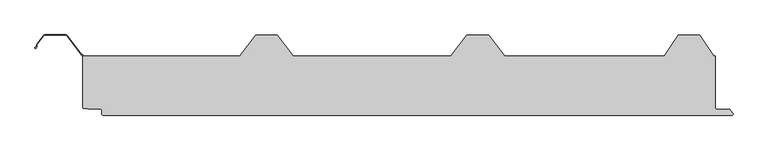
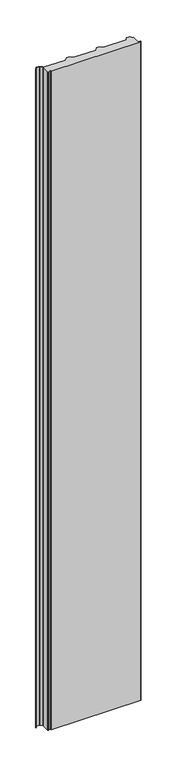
"""IFC4 building model written with IfcOpenShell, lengths in millimetres: plate geometry, Europanels_PolDeck TD T_Vt : PolDeck TD T 100/135."""

from ifc_helpers import new_model, si_unit, point, frame, frame_2d, origin, origin_with_axes, place, context, project, spatial, polyline, circle_curve, trimmed, segment, composite_curve, outline, extrude, source, transform, mapped, element, save
from ifc_brep_helpers import plane_surface, cylinder_surface, revolved_surface, advanced_brep


def plate_f1b753af(model_context):
    return source(origin(), model_context, "Body", "SolidModel", [
        advanced_brep(
        [(-451.8371719, -50.0, 8180.0), (604.7628281, -50.0, 8180.0), (606.2516728, -46.9196011, 8180.0), (600.7656048, -39.9999883, 8180.0), (578.1627902, -40.0, 8180.0), (576.6627894, -38.5, 8180.0), (576.6627847, 50.0, 8180.0), (574.2316867, 50.0, 8180.0), (550.6325074, 84.7, 8180.0), (514.338799, 84.7, 8180.0), (490.7979812, 50.0, 8180.0), (222.5813316, 50.0, 8180.0), (195.6147806, 85.0, 8180.0), (159.3852194, 85.0, 8180.0), (132.4186684, 50.0, 8180.0), (-132.4186684, 50.0, 8180.0), (-159.3852194, 85.0, 8180.0), (-195.6147806, 85.0, 8180.0), (-222.5813316, 50.0, 8180.0), (-486.3371146, 50.0, 8180.0), (-486.3371755, -36.2927937, 8180.0), (-484.1472604, -38.7737392, 8180.0), (-478.3371959, -39.5000014, 8180.0), (-456.0371722, -39.5, 8180.0), (-454.3371721, -41.2, 8180.0), (-454.3371719, -47.5, 8180.0), (-451.8371719, -50.0, 0.0), (-454.3371719, -47.5, 0.0), (-454.3371719, -41.2, 0.0), (-456.0371722, -39.5, 0.0), (-478.3371959, -39.5000014, 0.0), (-484.1472604, -38.7737392, 0.0), (-486.3371755, -36.2927937, 0.0), (-486.3371146, 50.0, 0.0), (-222.5813316, 50.0, 0.0), (-195.6147806, 85.0, 0.0), (-159.3852194, 85.0, 0.0), (-132.4186684, 50.0, 0.0), (132.4186684, 50.0, 0.0), (159.3852194, 85.0, 0.0), (195.6147806, 85.0, 0.0), (222.5813316, 50.0, 0.0), (490.7979812, 50.0, 0.0), (514.338799, 84.7, 0.0), (550.6325074, 84.7, 0.0), (574.2316867, 50.0, 0.0), (576.6627847, 50.0, 0.0), (576.6627847, -38.5, 0.0), (578.1627902, -40.0, 0.0), (600.7656048, -39.9999883, 0.0), (606.2516728, -46.9196011, 0.0), (604.7628281, -50.0, 0.0)],
        [
            (0, 1),
            (1, 2, circle_curve(frame((604.7628281, -48.1, 8180.0), z_axis=(0.0, 0.0, 1.0), x_axis=(1.0, 0.0, 0.0)), 1.9)),
            (2, 3),
            (3, 4),
            (4, 5, circle_curve(frame((578.1627894, -38.5, 8180.0), z_axis=(0.0, 0.0, -1.0), x_axis=(1.0, 0.0, 0.0)), 1.5)),
            (5, 6),
            (6, 7),
            (7, 8),
            (8, 9),
            (9, 10),
            (10, 11),
            (11, 12),
            (12, 13),
            (13, 14),
            (14, 15),
            (15, 16),
            (16, 17),
            (17, 18),
            (18, 19),
            (19, 20),
            (20, 21, circle_curve(frame((-483.7947516, -36.2555968, 8180.0), z_axis=(0.0, 0.0, 1.0), x_axis=(1.0, 0.0, 0.0)), 2.5426961)),
            (21, 22),
            (22, 23),
            (23, 24, circle_curve(frame((-456.0371721, -41.2, 8180.0), z_axis=(0.0, 0.0, -1.0), x_axis=(1.0, 0.0, 0.0)), 1.7)),
            (24, 25),
            (25, 0, circle_curve(frame((-451.8371719, -47.5, 8180.0), z_axis=(0.0, 0.0, 1.0), x_axis=(1.0, 0.0, 0.0)), 2.5)),
            (26, 27, circle_curve(frame((-451.8371719, -47.5, 0.0), z_axis=(0.0, 0.0, -1.0), x_axis=(1.0, 0.0, 0.0)), 2.5)),
            (27, 28),
            (28, 29, circle_curve(frame((-456.0371721, -41.2, 0.0), z_axis=(0.0, 0.0, 1.0), x_axis=(1.0, 0.0, 0.0)), 1.7)),
            (29, 30),
            (30, 31),
            (31, 32, circle_curve(frame((-483.7947516, -36.2555968, 0.0), z_axis=(0.0, 0.0, -1.0), x_axis=(1.0, 0.0, 0.0)), 2.5426961)),
            (32, 33),
            (33, 34),
            (34, 35),
            (35, 36),
            (36, 37),
            (37, 38),
            (38, 39),
            (39, 40),
            (40, 41),
            (41, 42),
            (42, 43),
            (43, 44),
            (44, 45),
            (45, 46),
            (46, 47),
            (47, 48, circle_curve(frame((578.1627894, -38.5, 0.0), z_axis=(0.0, 0.0, 1.0), x_axis=(1.0, 0.0, 0.0)), 1.5)),
            (48, 49),
            (49, 50),
            (50, 51, circle_curve(frame((604.7628281, -48.1, 0.0), z_axis=(0.0, 0.0, -1.0), x_axis=(1.0, 0.0, 0.0)), 1.9)),
            (51, 26),
            (0, 26),
            (51, 1),
            (12, 40),
            (39, 13),
            (16, 36),
            (35, 17),
            (50, 2),
            (49, 3),
            (48, 4),
            (47, 5),
            (46, 6),
            (32, 20),
            (19, 33),
            (31, 21),
            (30, 22),
            (29, 23),
            (28, 24),
            (27, 25),
            (18, 34),
            (15, 37),
            (14, 38),
            (11, 41),
            (10, 42),
            (9, 43),
            (8, 44),
            (7, 45),
        ],
        [
            plane_surface(frame((604.7628281, -50.0, 8180.0), z_axis=(0.0, 0.0, 1.0), x_axis=(1.0, 0.0, 0.0))),
            plane_surface(frame((604.7628281, -50.0, 0.0), z_axis=(0.0, 0.0, -1.0), x_axis=(-1.0, 0.0, 0.0))),
            plane_surface(frame((-451.8371719, -50.0, 8180.0), z_axis=(0.0, -1.0, 0.0), x_axis=(0.0, 0.0, -1.0))),
            plane_surface(frame((576.6627847, 85.0, 8180.0), z_axis=(0.0, 1.0, 0.0), x_axis=(0.0, 0.0, -1.0))),
            cylinder_surface(frame((604.7628281, -48.1, 0.0), z_axis=(0.0, 0.0, 1.0), x_axis=(1.0, 0.0, 0.0)), 1.9),
            plane_surface(frame((606.2516728, -46.9196011, 8180.0), z_axis=(0.7836024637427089, 0.6212625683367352, 0.0), x_axis=(0.0, 0.0, -1.0))),
            plane_surface(frame((600.7656048, -39.9999883, 8180.0), z_axis=(-5.177725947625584e-07, 0.999999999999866, 0.0), x_axis=(0.0, 0.0, -1.0))),
            revolved_surface(polyline([(579.6627894, -38.5, 0.0), (579.6627894, -38.5, 8180.0)]), (578.1627894, -38.5, 0.0), (0.0, 0.0, -1.0)),
            plane_surface(frame((576.6627847, -38.5, 8180.0), z_axis=(1.0, 0.0, 0.0), x_axis=(0.0, 0.0, -1.0))),
            plane_surface(frame((-486.3370898, 85.0, 8180.0), z_axis=(-0.9999999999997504, 7.066005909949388e-07, 0.0), x_axis=(0.0, 0.0, -1.0))),
            cylinder_surface(frame((-483.7947516, -36.2555968, 0.0), z_axis=(0.0, 0.0, 1.0), x_axis=(1.0, 0.0, 0.0)), 2.5426961),
            plane_surface(frame((-484.1472604, -38.7737392, 8180.0), z_axis=(-0.12403543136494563, -0.9922777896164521, 0.0), x_axis=(0.0, 0.0, -1.0))),
            plane_surface(frame((-478.3371959, -39.5000014, 8180.0), z_axis=(6.152407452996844e-08, -0.9999999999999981, 0.0), x_axis=(0.0, 0.0, -1.0))),
            revolved_surface(polyline([(-454.33717210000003, -41.2, 0.0), (-454.33717210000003, -41.2, 8180.0)]), (-456.0371721, -41.2, 0.0), (0.0, 0.0, -1.0)),
            plane_surface(frame((-454.3371719, -41.2, 8180.0), z_axis=(-1.0, 0.0, 0.0), x_axis=(0.0, 0.0, -1.0))),
            cylinder_surface(frame((-451.8371719, -47.5, 0.0), z_axis=(0.0, 0.0, 1.0), x_axis=(1.0, 0.0, 0.0)), 2.5),
            plane_surface(frame((-486.7507581, 50.0, 8180.0), z_axis=(0.0, 1.0, 0.0), x_axis=(0.0, 0.0, -1.0))),
            plane_surface(frame((-222.5813316, 50.0, 8180.0), z_axis=(-0.7921482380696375, 0.6103287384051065, 0.0), x_axis=(0.0, 0.0, -1.0))),
            plane_surface(frame((-159.3852194, 85.0, 8180.0), z_axis=(0.7921482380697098, 0.6103287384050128, 0.0), x_axis=(0.0, 0.0, -1.0))),
            plane_surface(frame((-132.4186684, 50.0, 8180.0), z_axis=(0.0, 1.0, 0.0), x_axis=(0.0, 0.0, -1.0))),
            plane_surface(frame((132.4186684, 50.0, 8180.0), z_axis=(-0.7921482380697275, 0.6103287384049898, 0.0), x_axis=(0.0, 0.0, -1.0))),
            plane_surface(frame((195.6147806, 85.0, 8180.0), z_axis=(0.7921482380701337, 0.6103287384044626, 0.0), x_axis=(0.0, 0.0, -1.0))),
            plane_surface(frame((222.5813316, 50.0, 8180.0), z_axis=(0.0, 1.0, 0.0), x_axis=(0.0, 0.0, -1.0))),
            plane_surface(frame((490.7979812, 50.0, 8180.0), z_axis=(-0.8275379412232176, 0.561409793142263, 0.0), x_axis=(0.0, 0.0, -1.0))),
            plane_surface(frame((514.338799, 84.7, 8180.0), z_axis=(0.0, 1.0, 0.0), x_axis=(0.0, 0.0, -1.0))),
            plane_surface(frame((550.6325074, 84.7, 8180.0), z_axis=(0.8268912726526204, 0.5623618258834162, 0.0), x_axis=(0.0, 0.0, -1.0))),
            plane_surface(frame((574.2316867, 50.0, 8180.0), z_axis=(0.0, 1.0, 0.0), x_axis=(0.0, 0.0, -1.0))),
        ],
        [
            (0, [[1, 2, 3, 4, 5, 6, 7, 8, 9, 10, 11, 12, 13, 14, 15, 16, 17, 18, 19, 20, 21, 22, 23, 24, 25, 26]]),
            (1, [[27, 28, 29, 30, 31, 32, 33, 34, 35, 36, 37, 38, 39, 40, 41, 42, 43, 44, 45, 46, 47, 48, 49, 50, 51, 52]]),
            (2, [[-1, 53, -52, 54]]),
            (3, [[-13, 55, -40, 56]]),
            (3, [[-17, 57, -36, 58]]),
            (4, [[-2, -54, -51, 59]]),
            (5, [[-3, -59, -50, 60]]),
            (6, [[-4, -60, -49, 61]]),
            (7, [[-5, -61, -48, 62]]),
            (8, [[-62, -47, 63, -6]]),
            (9, [[64, -20, 65, -33]]),
            (10, [[-21, -64, -32, 66]]),
            (11, [[-22, -66, -31, 67]]),
            (12, [[-23, -67, -30, 68]]),
            (13, [[-24, -68, -29, 69]]),
            (14, [[-25, -69, -28, 70]]),
            (15, [[-26, -70, -27, -53]]),
            (16, [[71, -34, -65, -19]]),
            (17, [[-71, -18, -58, -35]]),
            (18, [[72, -37, -57, -16]]),
            (19, [[-72, -15, 73, -38]]),
            (20, [[-73, -14, -56, -39]]),
            (21, [[74, -41, -55, -12]]),
            (22, [[-74, -11, 75, -42]]),
            (23, [[-75, -10, 76, -43]]),
            (24, [[-76, -9, 77, -44]]),
            (25, [[-77, -8, 78, -45]]),
            (26, [[-78, -7, -63, -46]]),
        ],
    ),
        extrude(outline(composite_curve([segment(polyline([(-488.1301558, 51.8180935), (-486.3371133, 51.8180935), (-486.3371147, 49.783271), (-487.213946, 49.783271), (-512.9944904, 83.7629129)]), True, "CONTINUOUS"), segment(trimmed(circle_curve(frame_2d((-515.5217365, 81.8)), 3.2), [point((-512.9944904, 83.7629129))], [point((-515.5217365, 85.0))], True, "CARTESIAN"), True, "CONTINUOUS"), segment(polyline([(-515.5217365, 85.0), (-549.4782341, 85.0)]), True, "CONTINUOUS"), segment(trimmed(circle_curve(frame_2d((-549.4782341, 81.7999402)), 3.2000598), [point((-549.4782341, 85.0))], [point((-552.0108709, 83.7559907))], True, "CARTESIAN"), True, "CONTINUOUS"), segment(polyline([(-552.0108709, 83.7559907), (-562.2051715, 70.5697064), (-564.2753476, 67.1140575), (-562.8651997, 66.4368734), (-564.4530023, 63.1304808)]), True, "CONTINUOUS"), segment(trimmed(circle_curve(frame_2d((-565.5347363, 63.6499533)), 1.2), [point((-564.4530023, 63.1304808))], [point((-566.5729476, 64.2517151))], False, "CARTESIAN"), True, "CONTINUOUS"), segment(polyline([(-566.5729476, 64.2517151), (-562.6188662, 70.8520798), (-552.4065126, 84.0617156)]), True, "CONTINUOUS"), segment(trimmed(circle_curve(frame_2d((-549.4782341, 81.7999402)), 3.7000598), [point((-552.4065126, 84.0617156))], [point((-549.4782341, 85.5))], False, "CARTESIAN"), True, "CONTINUOUS"), segment(polyline([(-549.4782341, 85.5), (-515.5217365, 85.5)]), True, "CONTINUOUS"), segment(trimmed(circle_curve(frame_2d((-515.5217365, 81.8)), 3.7), [point((-515.5217365, 85.5))], [point((-512.5978099, 84.0673008))], False, "CARTESIAN"), True, "CONTINUOUS"), segment(polyline([(-512.5978099, 84.0673008), (-488.1301558, 51.8180935)]), True, "CONTINUOUS")], self_intersect=False)), origin_with_axes(), (0.0, 0.0, 1.0), 8180.0),
    ])


if __name__ == "__main__":
    model = new_model("IFC4")
    model_context = context("Model", 3, world=origin())
    ifc_project = project(units=[si_unit("LENGTHUNIT", "METRE", prefix="MILLI")], contexts=[model_context])
    site = spatial("IfcSite", under=ifc_project)
    building = spatial("IfcBuilding", under=site)
    placement = place(None, origin())
    plate_shape = plate_f1b753af(model_context)
    element("IfcPlate", 1, ObjectType="Europanels_PolDeck TD T_Vt : PolDeck TD T 100/135", at=placement, inside=building, context=model_context, shape_type="MappedRepresentation", body=[
        mapped(plate_shape, transform((0.0, 0.0, 0.0), x_axis=(1.0, 0.0, 0.0), y_axis=(0.0, 1.0, 0.0), z_axis=(0.0, 0.0, 1.0))),
    ])
    save(model, "model.ifc")
